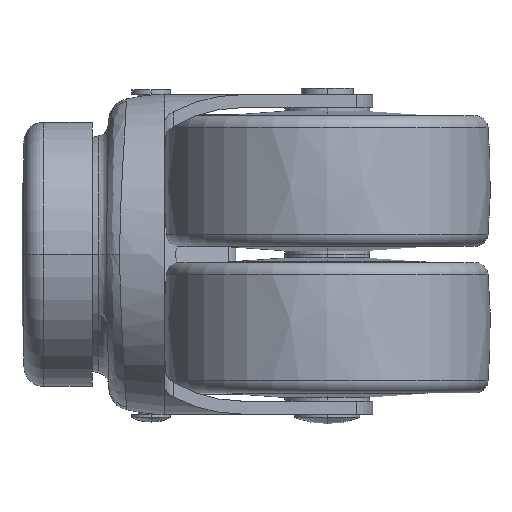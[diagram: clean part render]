
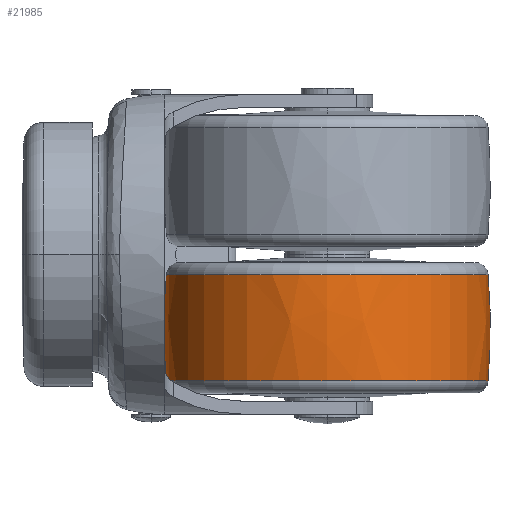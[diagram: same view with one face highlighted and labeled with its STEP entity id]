
A CAD part, left-side view. The second image highlights one B-rep face of the part: STEP entity #21985.
In plain terms, the highlighted free-form (B-spline) face has degree [3, 3] with [7, 4] control points.
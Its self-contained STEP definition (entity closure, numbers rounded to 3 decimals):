
#21778=CARTESIAN_POINT('',(8.163,0.,0.));
#21779=DIRECTION('',(-1.,0.,0.));
#21780=DIRECTION('',(0.,0.,-1.));
#21781=AXIS2_PLACEMENT_3D('',#21778,#21779,#21780);
#21783=CARTESIAN_POINT('',(0.,0.,75.25));
#21784=DIRECTION('',(0.,1.,0.));
#21785=DIRECTION('',(0.081,0.,-0.997));
#21786=AXIS2_PLACEMENT_3D('',#21783,#21784,#21785);
#21788=CARTESIAN_POINT('',(-8.163,0.,0.));
#21789=DIRECTION('',(-1.,0.,0.));
#21790=DIRECTION('',(0.,0.,-1.));
#21791=AXIS2_PLACEMENT_3D('',#21788,#21789,#21790);
#21793=CARTESIAN_POINT('',(0.,0.,-75.25));
#21794=DIRECTION('',(0.,-1.,0.));
#21795=DIRECTION('',(0.081,0.,0.997));
#21796=AXIS2_PLACEMENT_3D('',#21793,#21794,#21795);
#21864=CARTESIAN_POINT('',(8.163,0.,-24.667));
#21865=CARTESIAN_POINT('',(8.163,0.,24.667));
#21866=VERTEX_POINT('',#21864);
#21867=VERTEX_POINT('',#21865);
#21876=CARTESIAN_POINT('',(-8.163,0.,-24.667));
#21877=CARTESIAN_POINT('',(-8.163,0.,24.667));
#21878=VERTEX_POINT('',#21876);
#21879=VERTEX_POINT('',#21877);
#21949=CARTESIAN_POINT('',(-8.489,1.547,
24.591));
#21950=CARTESIAN_POINT('',(-2.836,1.577,
25.071));
#21951=CARTESIAN_POINT('',(2.836,1.577,25.071));
#21952=CARTESIAN_POINT('',(8.489,1.547,24.591));
#21953=CARTESIAN_POINT('',(-8.489,-13.586,
25.543));
#21954=CARTESIAN_POINT('',(-2.836,-13.851,
26.041));
#21955=CARTESIAN_POINT('',(2.836,-13.851,
26.041));
#21956=CARTESIAN_POINT('',(8.489,-13.586,
25.543));
#21957=CARTESIAN_POINT('',(-8.489,-24.64,
15.163));
#21958=CARTESIAN_POINT('',(-2.836,-25.12,
15.459));
#21959=CARTESIAN_POINT('',(2.836,-25.12,
15.459));
#21960=CARTESIAN_POINT('',(8.489,-24.64,
15.163));
#21961=CARTESIAN_POINT('',(-8.489,-24.64,0.));
#21962=CARTESIAN_POINT('',(-2.836,-25.12,0.));
#21963=CARTESIAN_POINT('',(2.836,-25.12,0.));
#21964=CARTESIAN_POINT('',(8.489,-24.64,0.));
#21965=CARTESIAN_POINT('',(-8.489,-24.64,
-15.163));
#21966=CARTESIAN_POINT('',(-2.836,-25.12,
-15.459));
#21967=CARTESIAN_POINT('',(2.836,-25.12,
-15.459));
#21968=CARTESIAN_POINT('',(8.489,-24.64,
-15.163));
#21969=CARTESIAN_POINT('',(-8.489,-13.586,
-25.543));
#21970=CARTESIAN_POINT('',(-2.836,-13.851,
-26.041));
#21971=CARTESIAN_POINT('',(2.836,-13.851,
-26.041));
#21972=CARTESIAN_POINT('',(8.489,-13.586,
-25.543));
#21973=CARTESIAN_POINT('',(-8.489,1.547,
-24.591));
#21974=CARTESIAN_POINT('',(-2.836,1.577,
-25.071));
#21975=CARTESIAN_POINT('',(2.836,1.577,
-25.071));
#21976=CARTESIAN_POINT('',(8.489,1.547,
-24.591));
#21977=(BOUNDED_SURFACE()B_SPLINE_SURFACE(3,3,((#21949,#21950,#21951,#21952),(
#21953,#21954,#21955,#21956),(#21957,#21958,#21959,#21960),(#21961,#21962,
#21963,#21964),(#21965,#21966,#21967,#21968),(#21969,#21970,#21971,#21972),(
#21973,#21974,#21975,#21976)),.UNSPECIFIED.,.F.,.F.,.F.)B_SPLINE_SURFACE_WITH_KNOTS((4,3,4),(4,4),(0.,1.,2.),(0.,1.),.UNSPECIFIED.)GEOMETRIC_REPRESENTATION_ITEM()RATIONAL_B_SPLINE_SURFACE(((1.189,1.187,
1.187,1.189),(0.939,0.937,
0.937,0.939),(0.939,0.937,
0.937,0.939),(1.189,1.187,
1.187,1.189),(0.939,0.937,
0.937,0.939),(0.939,0.937,
0.937,0.939),(1.189,1.187,
1.187,1.189)))REPRESENTATION_ITEM('')SURFACE());
#21978=ORIENTED_EDGE('',*,*,#21940,.F.);
#21979=ORIENTED_EDGE('',*,*,#21915,.T.);
#21981=ORIENTED_EDGE('',*,*,#21980,.T.);
#21982=ORIENTED_EDGE('',*,*,#21911,.F.);
#21983=EDGE_LOOP('',(#21978,#21979,#21981,#21982));
#21984=FACE_OUTER_BOUND('',#21983,.F.);
#21782=CIRCLE('',#21781,24.667);
#21787=CIRCLE('',#21786,100.25);
#21792=CIRCLE('',#21791,24.667);
#21797=CIRCLE('',#21796,100.25);
#21911=EDGE_CURVE('',#21867,#21879,#21797,.T.);
#21915=EDGE_CURVE('',#21866,#21878,#21787,.T.);
#21940=EDGE_CURVE('',#21866,#21867,#21782,.T.);
#21980=EDGE_CURVE('',#21878,#21879,#21792,.T.);
#21985=ADVANCED_FACE('',(#21984),#21977,.T.);
